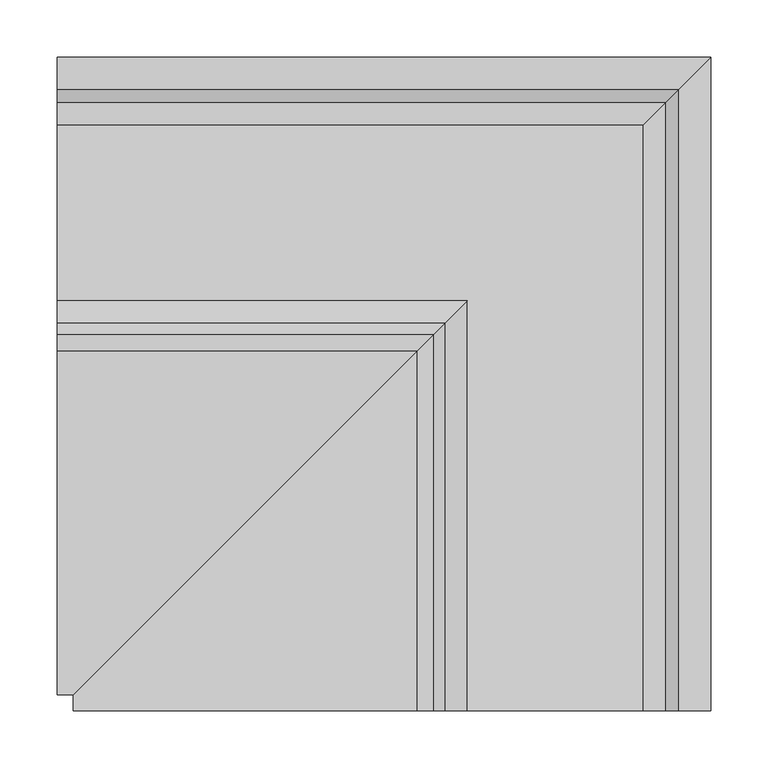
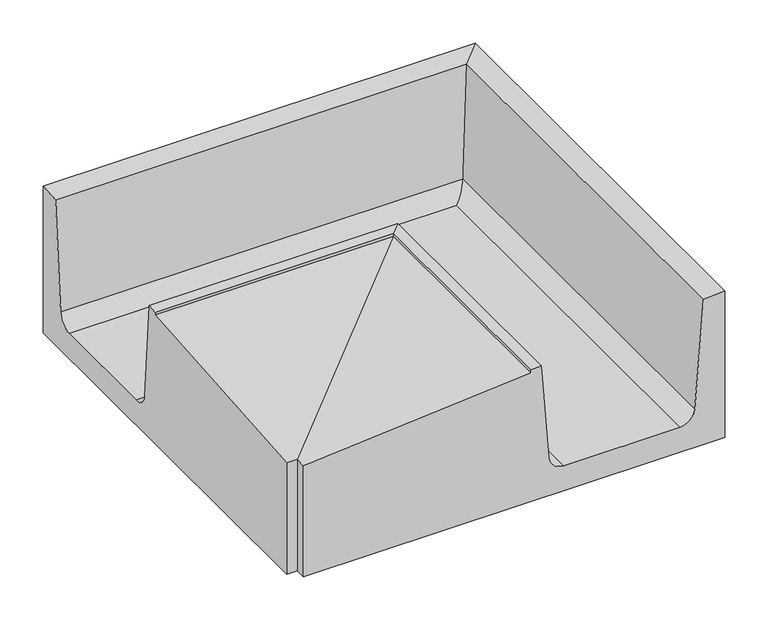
"""IFC4 building model written with IfcOpenShell, lengths in millimetres: proxy geometry, ROSA GRES_RS 921 Esquina Ángulo Interior : Bloque RS 921 Esquina Ángulo Int."""

from ifc_helpers import new_model, si_unit, frame, origin, place, context, project, spatial, polyline, circle_curve, ellipse_curve, source, transform, mapped, element, save
from ifc_brep_helpers import plane_surface, revolved_surface, advanced_brep


def generic_models_48877300(model_context):
    return source(origin(), model_context, "Body", "AdvancedBrep", [
        advanced_brep(
        [(-559.0203405, 14.0, 220.7738447), (-559.0203405, 14.0, 15.0), (-559.0203405, -544.95, 15.0), (-559.0203405, -544.95, 171.045529), (-559.0203405, -242.8685328, 195.6335554), (-559.0203405, -243.210762, 199.838085), (-559.0203405, -229.4698443, 200.9565318), (-559.0203405, -219.2877538, 68.4547526), (-559.0203405, -199.3475379, 50.0), (-559.0203405, -45.6524621, 50.0), (-559.0203405, -25.7122462, 68.4547526), (-559.0203405, -14.0855824, 218.487809), (14.0, -559.0203405, 220.7738447), (-14.0855824, -559.0203405, 218.487809), (-25.7122462, -559.0203405, 68.4547526), (-45.6524621, -559.0203405, 50.0), (-199.3475379, -559.0203405, 50.0), (-219.2877538, -559.0203405, 68.4547526), (-229.4698443, -559.0203405, 200.9565318), (-243.210762, -559.0203405, 199.838085), (-242.8685328, -559.0203405, 195.6335554), (-544.95, -559.0203405, 171.045529), (-544.95, -559.0203405, 15.0), (14.0, -559.0203405, 15.0), (14.0, 14.0, 220.7738447), (14.0, 14.0, 15.0), (-544.95, -544.95, 15.0), (-544.95, -544.95, 171.045529), (-242.8685328, -242.8685328, 195.6335554), (-243.210762, -243.210762, 199.838085), (-229.4698443, -229.4698443, 200.9565318), (-219.2877538, -219.2877538, 68.4547526), (-199.3475379, -199.3475379, 50.0), (-45.6524621, -45.6524621, 50.0), (-25.7122462, -25.7122462, 68.4547526), (-14.0855824, -14.0855824, 218.487809)],
        [
            (0, 1),
            (1, 2),
            (2, 3),
            (3, 4),
            (4, 5),
            (5, 6),
            (6, 7),
            (7, 8, circle_curve(frame((-559.0203405, -199.3475379, 70.0), z_axis=(1.0, 0.0, 0.0), x_axis=(0.0, 1.0, 0.0)), 20.0)),
            (8, 9),
            (9, 10, circle_curve(frame((-559.0203405, -45.6524621, 70.0), z_axis=(1.0, 0.0, 0.0), x_axis=(0.0, 1.0, 0.0)), 20.0)),
            (10, 11),
            (11, 0),
            (12, 13),
            (13, 14),
            (14, 15, circle_curve(frame((-45.6524621, -559.0203405, 70.0), z_axis=(0.0, 1.0, 0.0), x_axis=(1.0, 0.0, 0.0)), 20.0)),
            (15, 16),
            (16, 17, circle_curve(frame((-199.3475379, -559.0203405, 70.0), z_axis=(0.0, 1.0, 0.0), x_axis=(1.0, 0.0, 0.0)), 20.0)),
            (17, 18),
            (18, 19),
            (19, 20),
            (20, 21),
            (21, 22),
            (22, 23),
            (23, 12),
            (0, 24),
            (24, 25),
            (25, 1),
            (25, 23),
            (22, 26),
            (26, 2),
            (26, 27),
            (27, 3),
            (27, 28),
            (28, 4),
            (28, 29),
            (29, 5),
            (29, 30),
            (30, 6),
            (30, 31),
            (31, 7),
            (31, 32, ellipse_curve(frame((-199.3475379, -199.3475379, 70.0), z_axis=(0.7071067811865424, -0.7071067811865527, 0.0), x_axis=(0.7071067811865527, 0.7071067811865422, 0.0)), 28.2842712, 20.0)),
            (32, 8),
            (32, 16),
            (15, 33),
            (33, 9),
            (33, 34, ellipse_curve(frame((-45.6524621, -45.6524621, 70.0), z_axis=(0.7071067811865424, -0.7071067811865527, 0.0), x_axis=(0.7071067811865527, 0.7071067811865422, 0.0)), 28.2842712, 20.0)),
            (34, 10),
            (34, 35),
            (35, 11),
            (35, 24),
            (24, 12),
            (21, 27),
            (20, 28),
            (19, 29),
            (18, 30),
            (17, 31),
            (14, 34),
            (13, 35),
        ],
        [
            plane_surface(frame((-559.0203405, 0.4796595, 0.0), z_axis=(-1.0, 0.0, 0.0), x_axis=(0.0, 0.0, 1.0))),
            plane_surface(frame((0.4796595, -559.0203405, 0.0), z_axis=(0.0, -1.0, 0.0), x_axis=(0.0, 0.0, 1.0))),
            plane_surface(frame((-559.0203405, 14.0, 220.7738447), z_axis=(0.0, 1.0, 0.0), x_axis=(1.0, 0.0, 0.0))),
            plane_surface(frame((-559.0203405, 14.0, 15.0), z_axis=(0.0, 0.0, -1.0), x_axis=(1.0, 0.0, 0.0))),
            plane_surface(frame((-559.0203405, -544.95, 15.0), z_axis=(0.0, -1.0, 0.0), x_axis=(1.0, 0.0, 0.0))),
            plane_surface(frame((-559.0203405, -544.95, 171.045529), z_axis=(0.0, -0.08112705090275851, 0.996703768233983), x_axis=(1.0, 0.0, 0.0))),
            plane_surface(frame((-559.0203405, -242.8685328, 195.6335554), z_axis=(0.0, -0.996703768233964, -0.08112705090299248), x_axis=(1.0, 0.0, 0.0))),
            plane_surface(frame((-559.0203405, -243.210762, 199.838085), z_axis=(0.0, -0.08112705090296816, 0.9967037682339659), x_axis=(1.0, 0.0, 0.0))),
            plane_surface(frame((-559.0203405, -229.4698443, 200.9565318), z_axis=(0.0, 0.997060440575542, 0.07661904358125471), x_axis=(1.0, 0.0, 0.0))),
            revolved_surface(polyline([(-179.3475379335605, -179.3475379, 70.0), (-559.0203405, -179.3475379, 70.0)]), (-559.0203405, -199.3475379, 70.0), (1.0, 0.0, 0.0)),
            plane_surface(frame((-559.0203405, -199.3475379, 50.0), z_axis=(0.0, 0.0, 1.0), x_axis=(1.0, 0.0, 0.0))),
            revolved_surface(polyline([(-25.652462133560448, -25.6524621, 70.0), (-559.0203405, -25.6524621, 70.0)]), (-559.0203405, -45.6524621, 70.0), (1.0, 0.0, 0.0)),
            plane_surface(frame((-559.0203405, -25.7122462, 68.4547526), z_axis=(0.0, -0.9970107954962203, 0.0772623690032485), x_axis=(1.0, 0.0, 0.0))),
            plane_surface(frame((-559.0203405, -14.0855824, 218.487809), z_axis=(0.0, -0.08112705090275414, 0.9967037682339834), x_axis=(1.0, 0.0, 0.0))),
            plane_surface(frame((14.0, 14.0, 220.7738447), z_axis=(1.0, 0.0, 0.0), x_axis=(0.0, -1.0, 0.0))),
            plane_surface(frame((-544.95, -544.95, 15.0), z_axis=(-1.0, 0.0, 0.0), x_axis=(0.0, -1.0, 0.0))),
            plane_surface(frame((-544.95, -544.95, 171.045529), z_axis=(-0.08112705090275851, 0.0, 0.996703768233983), x_axis=(0.0, -1.0, 0.0))),
            plane_surface(frame((-242.8685328, -242.8685328, 195.6335554), z_axis=(-0.996703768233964, 0.0, -0.08112705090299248), x_axis=(0.0, -1.0, 0.0))),
            plane_surface(frame((-243.210762, -243.210762, 199.838085), z_axis=(-0.08112705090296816, 0.0, 0.9967037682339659), x_axis=(0.0, -1.0, 0.0))),
            plane_surface(frame((-229.4698443, -229.4698443, 200.9565318), z_axis=(0.997060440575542, 0.0, 0.07661904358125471), x_axis=(0.0, -1.0, 0.0))),
            revolved_surface(polyline([(-179.3475379, -559.0203405, 70.0), (-179.3475379, -179.34753793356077, 70.0)]), (-199.3475379, 0.4796595, 70.0), (0.0, -1.0, 0.0)),
            revolved_surface(polyline([(-25.6524621, -559.0203405, 70.0), (-25.6524621, -25.65246213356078, 70.0)]), (-45.6524621, 0.4796595, 70.0), (0.0, -1.0, 0.0)),
            plane_surface(frame((-25.7122462, -25.7122462, 68.4547526), z_axis=(-0.9970107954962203, 0.0, 0.0772623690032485), x_axis=(0.0, -1.0, 0.0))),
            plane_surface(frame((-14.0855824, -14.0855824, 218.487809), z_axis=(-0.08112705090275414, 0.0, 0.9967037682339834), x_axis=(0.0, -1.0, 0.0))),
        ],
        [
            (0, [[1, 2, 3, 4, 5, 6, 7, 8, 9, 10, 11, 12]]),
            (1, [[13, 14, 15, 16, 17, 18, 19, 20, 21, 22, 23, 24]]),
            (2, [[-1, 25, 26, 27]]),
            (3, [[-2, -27, 28, -23, 29, 30]]),
            (4, [[-3, -30, 31, 32]]),
            (5, [[-4, -32, 33, 34]]),
            (6, [[-5, -34, 35, 36]]),
            (7, [[-6, -36, 37, 38]]),
            (8, [[-7, -38, 39, 40]]),
            (9, [[-8, -40, 41, 42]]),
            (10, [[-9, -42, 43, -16, 44, 45]]),
            (11, [[-10, -45, 46, 47]]),
            (12, [[-11, -47, 48, 49]]),
            (13, [[-12, -49, 50, -25]]),
            (14, [[-26, 51, -24, -28]]),
            (15, [[-31, -29, -22, 52]]),
            (16, [[-33, -52, -21, 53]]),
            (17, [[-35, -53, -20, 54]]),
            (18, [[-37, -54, -19, 55]]),
            (19, [[-39, -55, -18, 56]]),
            (20, [[-41, -56, -17, -43]]),
            (21, [[-46, -44, -15, 57]]),
            (22, [[-48, -57, -14, 58]]),
            (23, [[-50, -58, -13, -51]]),
        ],
    ),
    ])


if __name__ == "__main__":
    model = new_model("IFC4")
    model_context = context("Model", 3, world=origin())
    ifc_project = project(units=[si_unit("LENGTHUNIT", "METRE", prefix="MILLI")], contexts=[model_context])
    site = spatial("IfcSite", under=ifc_project)
    building = spatial("IfcBuilding", under=site)
    placement = place(None, origin())
    generic_models_shape = generic_models_48877300(model_context)
    element("IfcBuildingElementProxy", 1, Name="ROSA GRES_RS 921 Esquina Ángulo Interior : Bloque RS 921 Esquina Ángulo Int", ObjectType="ROSA GRES_RS 921 Esquina Ángulo Interior : Bloque RS 921 Esquina Ángulo Int", at=placement, inside=building, context=model_context, shape_type="MappedRepresentation", body=[
        mapped(generic_models_shape, transform((0.0, 0.0, 0.0), x_axis=(1.0, 0.0, 0.0), y_axis=(0.0, 1.0, 0.0), z_axis=(0.0, 0.0, 1.0))),
    ])
    save(model, "model.ifc")
